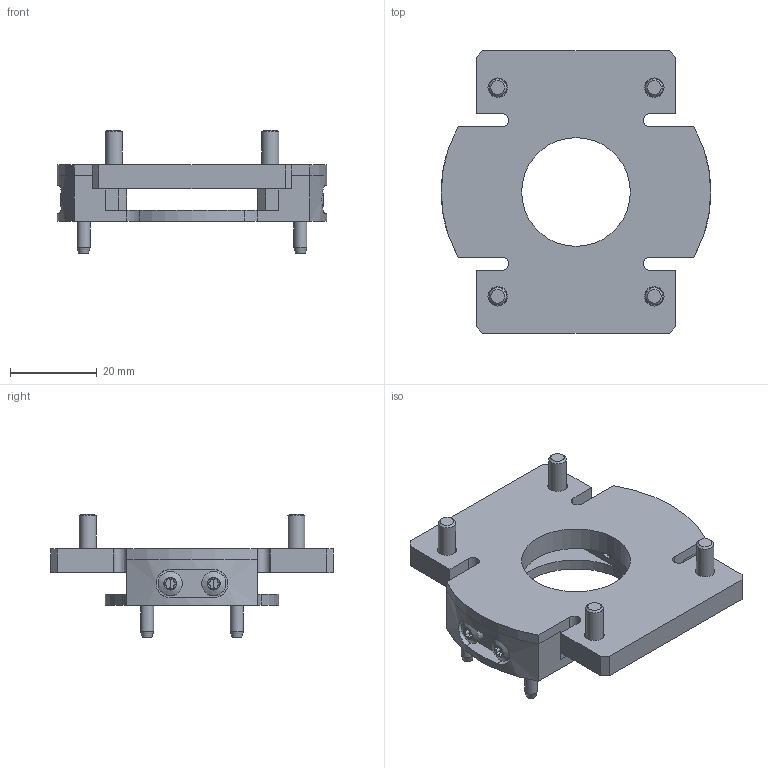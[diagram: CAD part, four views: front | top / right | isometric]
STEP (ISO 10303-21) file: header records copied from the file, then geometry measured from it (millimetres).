
FILE_DESCRIPTION(/* description */ (''),/* implementation_level */ '2;1');
FILE_NAME(/* name */ 'C:\ProgramData\PROCAD GmbH & Co. KG\NdfWork\339572_NdfWork\D00293031.step',/* time_stamp */ '2021-03-05T09:01:54+01:00',/* author */ ('fberger'),/* organization */ (''),/* preprocessor_version */ 'ST-DEVELOPER v18.1',/* originating_system */ 'Autodesk Inventor 2020',/* authorisation */ '');
FILE_SCHEMA (('AUTOMOTIVE_DESIGN { 1 0 10303 214 3 1 1 }'));
Length unit declared in the file: millimetre
Products named in the file (6): D00293031.iam; D00291212.ipt; D00291215.ipt; D00187700.ipt; D00128762.ipt; D00292872.ipt
Assembly tree (14 placements, depth 2):
  D00293031.iam
    D00291212.ipt
    D00291215.ipt
    D00187700.ipt  x4
    D00128762.ipt  x4
    D00292872.ipt  x4
Bounding box: 62 x 65 x 28.5 mm (x, y, z)
Volume: 22083.9 mm3; surface area: 16849.5 mm2
Topology: 14 solids, 14 shells, 396 faces, 1065 edges, 723 vertices
Faces by surface type: cylinder 168, plane 116, bspline 48, torus 32, cone 28, sphere 4
Full cylindrical faces by diameter (mm): 2.459 x4, 2.828 x4, 3 x8, 3.3 x8, 4 x4, 4.5 x4, 5.3 x4, 5.6 x4, 6 x4, 7 x4, 8 x4, 25 x1, 30 x1
Entity records: 7169 total; most frequent: CARTESIAN_POINT 2346, DIRECTION 966, ORIENTED_EDGE 948, EDGE_CURVE 474, AXIS2_PLACEMENT_3D 377, VERTEX_POINT 327, EDGE_LOOP 227, LINE 212
